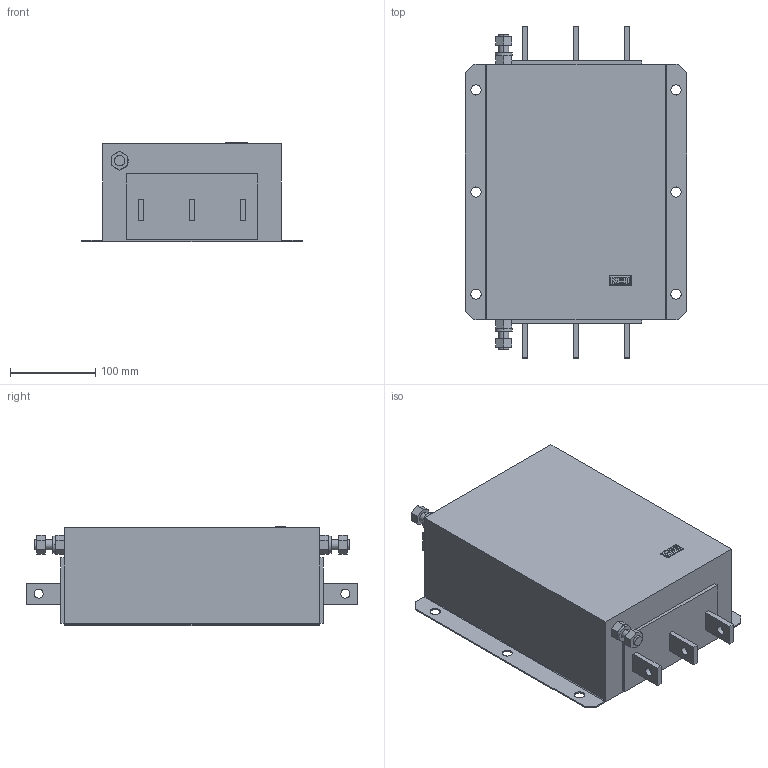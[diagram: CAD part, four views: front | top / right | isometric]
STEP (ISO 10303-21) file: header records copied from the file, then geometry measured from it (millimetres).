
FILE_DESCRIPTION (( 'STEP AP214' ), '1' );
FILE_NAME ('00E4X01-0028.STEP', '2023-07-11T07:57:17', ( '' ), ( '' ), 'SwSTEP 2.0', 'SolidWorks 2022', '' );
FILE_SCHEMA (( 'AUTOMOTIVE_DESIGN' ));
Length unit declared in the file: millimetre
Products named in the file (1): 00E4X01-0028
Bounding box: 260 x 390 x 116.52 mm (x, y, z)
Volume: 7418429.9 mm3; surface area: 295851.6 mm2
Topology: 1 solids, 1 shells, 206 faces, 517 edges, 334 vertices
Faces by surface type: plane 144, cylinder 49, bspline 13
Entity records: 6845 total; most frequent: CARTESIAN_POINT 1951, ORIENTED_EDGE 1034, DIRECTION 927, EDGE_CURVE 517, VERTEX_POINT 334, VECTOR 315, LINE 315, AXIS2_PLACEMENT_3D 306
